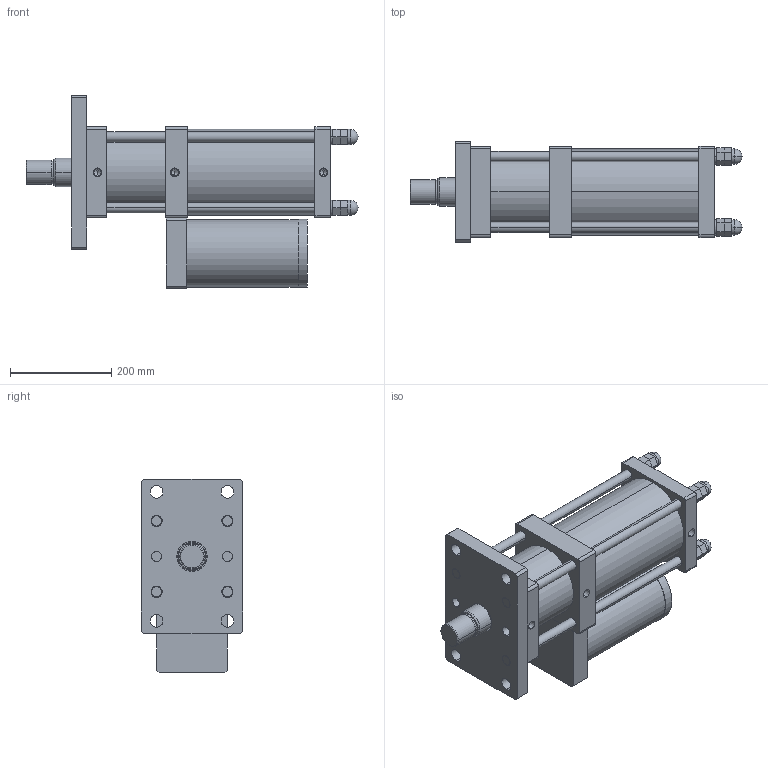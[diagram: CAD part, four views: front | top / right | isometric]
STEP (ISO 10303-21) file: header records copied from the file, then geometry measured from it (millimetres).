
FILE_DESCRIPTION (( 'STEP AP203' ), '1' );
FILE_NAME ('MPT-125-50-15-15T.STEP', '2016-03-11T09:10:37', ( 'WIN' ), ( '' ), 'SwSTEP 2.0', 'SolidWorks 2014', '' );
FILE_SCHEMA (( 'CONFIG_CONTROL_DESIGN' ));
Length unit declared in the file: millimetre
Products named in the file (1): MPT-125-50-15-15T
Bounding box: 656 x 200 x 382.5 mm (x, y, z)
Volume: 15136418.6 mm3; surface area: 1110389.2 mm2
Topology: 17 solids, 17 shells, 321 faces, 732 edges, 458 vertices
Faces by surface type: plane 155, cylinder 124, cone 30, sphere 8, torus 4
Entity records: 8969 total; most frequent: DIRECTION 1654, CARTESIAN_POINT 1480, ORIENTED_EDGE 1416, EDGE_CURVE 708, AXIS2_PLACEMENT_3D 624, VERTEX_POINT 450, LINE 406, VECTOR 406
